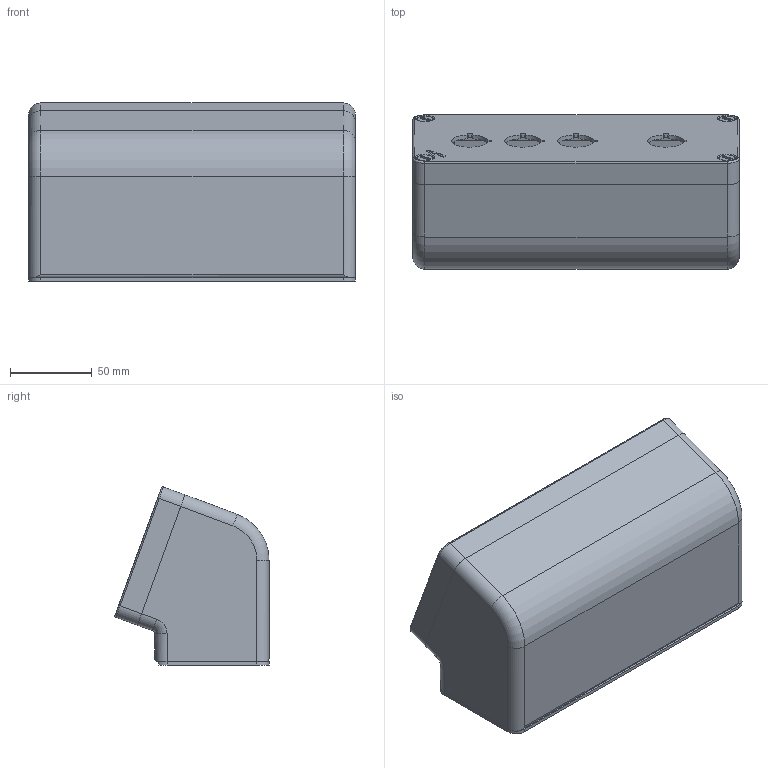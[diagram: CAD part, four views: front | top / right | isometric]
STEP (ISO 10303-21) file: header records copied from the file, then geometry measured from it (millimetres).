
FILE_DESCRIPTION (( 'STEP AP214' ), '1' );
FILE_NAME ('040L0820-8EP4LC.STEP', '2018-10-03T09:11:24', ( '' ), ( '' ), 'SwSTEP 2.0', 'SolidWorks 2013', '' );
FILE_SCHEMA (( 'AUTOMOTIVE_DESIGN' ));
Length unit declared in the file: millimetre
Products named in the file (1): 040L0820-8EP4LC
Bounding box: 200 x 94.41 x 109.11 mm (x, y, z)
Volume: 355662.3 mm3; surface area: 192082.5 mm2
Topology: 7 solids, 7 shells, 615 faces, 1577 edges, 1002 vertices
Faces by surface type: cylinder 275, plane 258, torus 80, bspline 2
Entity records: 25298 total; most frequent: CARTESIAN_POINT 3730, DIRECTION 3312, ORIENTED_EDGE 3154, EDGE_CURVE 1577, AXIS2_PLACEMENT_3D 1205, VERTEX_POINT 1002, VECTOR 902, LINE 902
